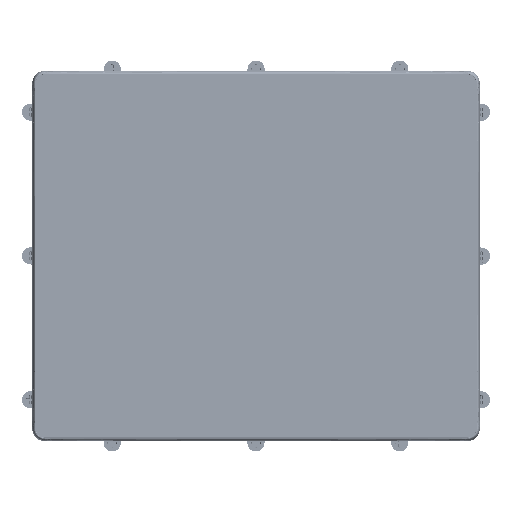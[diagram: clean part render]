
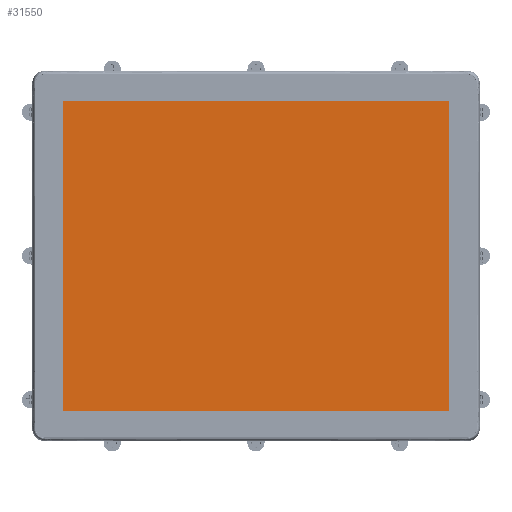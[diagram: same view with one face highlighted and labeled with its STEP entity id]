
A CAD part, top view. The second image highlights one B-rep face of the part: STEP entity #31550.
In plain terms, the highlighted planar face has unit normal (0, 0, 1).
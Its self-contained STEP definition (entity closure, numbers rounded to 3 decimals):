
#3312=DIRECTION('',(0.,-1.,0.));
#3313=VECTOR('',#3312,271.34);
#3314=CARTESIAN_POINT('',(-169.46,135.67,5.94));
#3315=LINE('',#3314,#3313);
#3316=DIRECTION('',(-1.,0.,0.));
#3317=VECTOR('',#3316,338.92);
#3318=CARTESIAN_POINT('',(169.46,135.67,5.94));
#3319=LINE('',#3318,#3317);
#3320=DIRECTION('',(0.,1.,0.));
#3321=VECTOR('',#3320,271.34);
#3322=CARTESIAN_POINT('',(169.46,-135.67,5.94));
#3323=LINE('',#3322,#3321);
#3324=DIRECTION('',(1.,0.,0.));
#3325=VECTOR('',#3324,338.92);
#3326=CARTESIAN_POINT('',(-169.46,-135.67,5.94));
#3327=LINE('',#3326,#3325);
#24344=CARTESIAN_POINT('',(-169.46,135.67,5.94));
#24346=VERTEX_POINT('',#24344);
#24349=CARTESIAN_POINT('',(-169.46,-135.67,5.94));
#24351=VERTEX_POINT('',#24349);
#24352=CARTESIAN_POINT('',(169.46,135.67,5.94));
#24354=VERTEX_POINT('',#24352);
#24356=CARTESIAN_POINT('',(169.46,-135.67,5.94));
#24358=VERTEX_POINT('',#24356);
#31539=CARTESIAN_POINT('',(0.,0.,5.94));
#31540=DIRECTION('',(0.,0.,1.));
#31541=DIRECTION('',(1.,0.,0.));
#31542=AXIS2_PLACEMENT_3D('',#31539,#31540,#31541);
#31543=PLANE('',#31542);
#31544=ORIENTED_EDGE('',*,*,#31462,.F.);
#31545=ORIENTED_EDGE('',*,*,#31486,.F.);
#31546=ORIENTED_EDGE('',*,*,#31505,.F.);
#31547=ORIENTED_EDGE('',*,*,#31525,.F.);
#31548=EDGE_LOOP('',(#31544,#31545,#31546,#31547));
#31549=FACE_OUTER_BOUND('',#31548,.F.);
#31550=ADVANCED_FACE('',(#31549),#31543,.T.);
#31462=EDGE_CURVE('',#24346,#24351,#3315,.T.);
#31486=EDGE_CURVE('',#24354,#24346,#3319,.T.);
#31505=EDGE_CURVE('',#24358,#24354,#3323,.T.);
#31525=EDGE_CURVE('',#24351,#24358,#3327,.T.);
